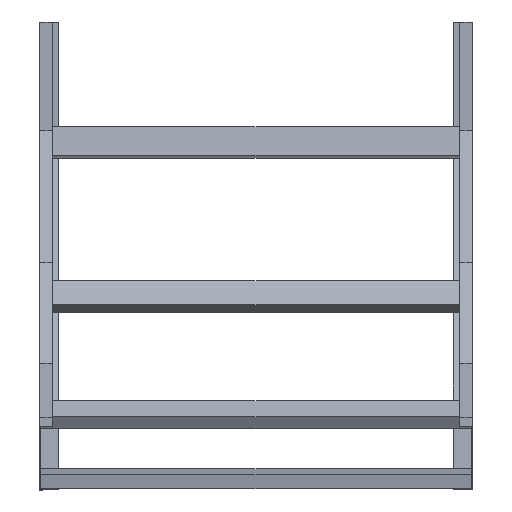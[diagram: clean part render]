
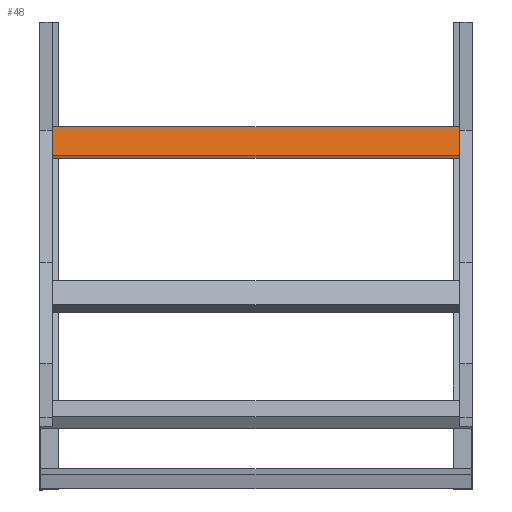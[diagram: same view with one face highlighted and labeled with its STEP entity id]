
A CAD part, top view. The second image highlights one B-rep face of the part: STEP entity #48.
In plain terms, the highlighted planar face has unit normal (0, 0.195, 0.981) as drawn and (0, 1, 0) by its records, which use the part's own axes.
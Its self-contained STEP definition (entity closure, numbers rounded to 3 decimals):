
#48 = ADVANCED_FACE ( 'NONE', ( #1103 ), #504, .F. ) ;
#74 = EDGE_CURVE ( 'NONE', #702, #1312, #1822, .T. ) ;
#107 = CARTESIAN_POINT ( 'NONE',  ( 298., 20., -20.25 ) ) ;
#134 = VECTOR ( 'NONE', #489, 1000. ) ;
#318 = EDGE_CURVE ( 'NONE', #1053, #702, #1752, .T. ) ;
#320 = DIRECTION ( 'NONE',  ( 0., 0., 1. ) ) ;
#358 = DIRECTION ( 'NONE',  ( 0., -1., 0. ) ) ;
#366 = DIRECTION ( 'NONE',  ( -1., 0., 0. ) ) ;
#395 = EDGE_LOOP ( 'NONE', ( #435, #1854, #1166, #1576 ) ) ;
#410 = VECTOR ( 'NONE', #366, 1000. ) ;
#435 = ORIENTED_EDGE ( 'NONE', *, *, #1189, .T. ) ;
#464 = CARTESIAN_POINT ( 'NONE',  ( 298., 20., 20.25 ) ) ;
#483 = DIRECTION ( 'NONE',  ( 0., 0., 1. ) ) ;
#489 = DIRECTION ( 'NONE',  ( -1., 0., 0. ) ) ;
#504 = PLANE ( 'NONE',  #1360 ) ;
#523 = DIRECTION ( 'NONE',  ( 0., 0., -1. ) ) ;
#624 = VECTOR ( 'NONE', #483, 1000. ) ;
#702 = VERTEX_POINT ( 'NONE', #1857 ) ;
#795 = LINE ( 'NONE', #1368, #134 ) ;
#972 = CARTESIAN_POINT ( 'NONE',  ( 298., 20., 20.25 ) ) ;
#1050 = CARTESIAN_POINT ( 'NONE',  ( -298., 20., 20.25 ) ) ;
#1053 = VERTEX_POINT ( 'NONE', #107 ) ;
#1086 = CARTESIAN_POINT ( 'NONE',  ( 298., 20., 20.25 ) ) ;
#1103 = FACE_OUTER_BOUND ( 'NONE', #395, .T. ) ;
#1166 = ORIENTED_EDGE ( 'NONE', *, *, #318, .F. ) ;
#1189 = EDGE_CURVE ( 'NONE', #1478, #1312, #1333, .T. ) ;
#1263 = CARTESIAN_POINT ( 'NONE',  ( -298., 20., 20.25 ) ) ;
#1312 = VERTEX_POINT ( 'NONE', #1263 ) ;
#1333 = LINE ( 'NONE', #1050, #624 ) ;
#1360 = AXIS2_PLACEMENT_3D ( 'NONE', #972, #358, #523 ) ;
#1368 = CARTESIAN_POINT ( 'NONE',  ( 298., 20., -20.25 ) ) ;
#1478 = VERTEX_POINT ( 'NONE', #1588 ) ;
#1576 = ORIENTED_EDGE ( 'NONE', *, *, #1731, .T. ) ;
#1588 = CARTESIAN_POINT ( 'NONE',  ( -298., 20., -20.25 ) ) ;
#1731 = EDGE_CURVE ( 'NONE', #1053, #1478, #795, .T. ) ;
#1752 = LINE ( 'NONE', #464, #1771 ) ;
#1771 = VECTOR ( 'NONE', #320, 1000. ) ;
#1822 = LINE ( 'NONE', #1086, #410 ) ;
#1854 = ORIENTED_EDGE ( 'NONE', *, *, #74, .F. ) ;
#1857 = CARTESIAN_POINT ( 'NONE',  ( 298., 20., 20.25 ) ) ;
